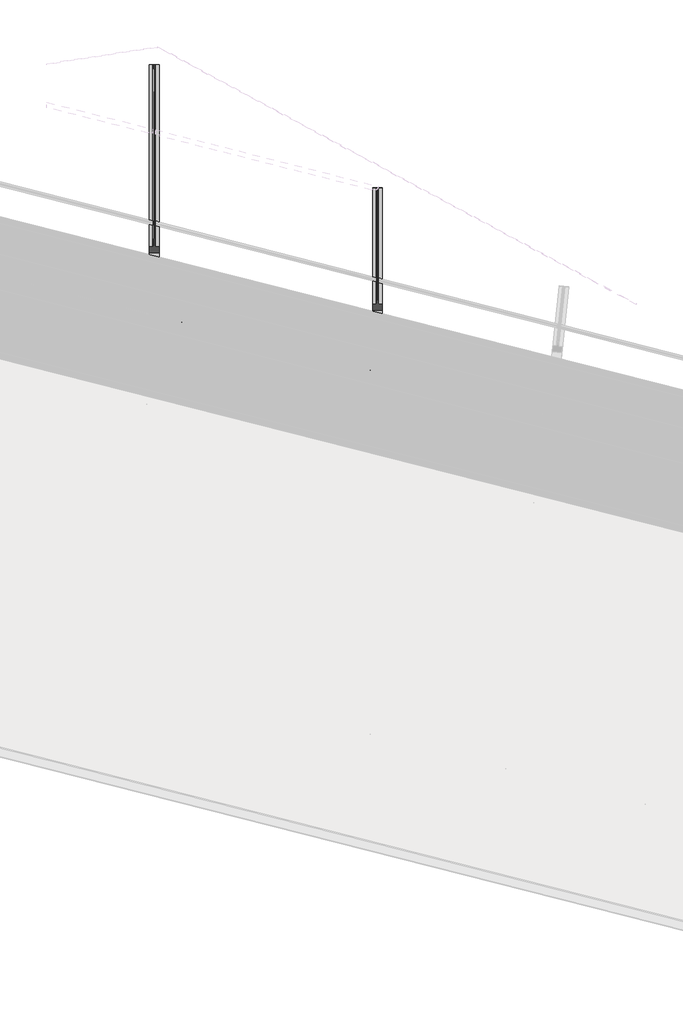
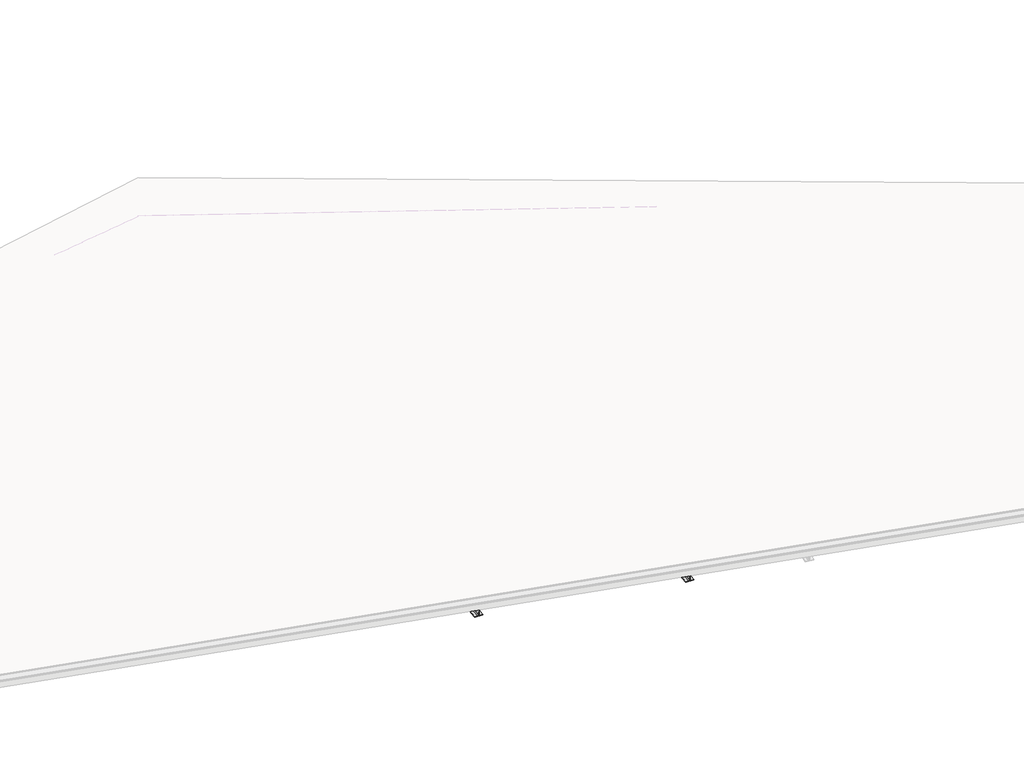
# One storey, part 7 of 10: 6 beams.
"""IFC4 building model written with IfcOpenShell, lengths in millimetres."""

from ifc_helpers import new_model, si_unit, frame, origin, place, context, project, spatial, polyline, ellipse_curve, faceted_brep, transform, mapped, element, save
from ifc_brep_helpers import plane_surface, cylinder_surface, revolved_surface, advanced_brep
from components import ipe_ipe450_4b1b466d, ipe_ipe450_39caabba

model = new_model("IFC4")

# Units and contexts
model_context = context("Model", 3, world=origin())
ifc_project = project(units=[si_unit("LENGTHUNIT", "METRE", prefix="MILLI")], contexts=[model_context])

# Site, building, storey
site = spatial("IfcSite", under=ifc_project)
building = spatial("IfcBuilding", under=site)
storey = spatial("IfcBuildingStorey", under=building, Name="2 Toiture batiment", Elevation=872910.0)

# Beams
placement = place(None, origin())
element("IfcBeam", 1, ObjectType="IPE : IPE160", at=placement, inside=storey, context=model_context, shape_type="AdvancedBrep", body=[
    advanced_brep(
    [(37439.4284051, 739.4741621, 873163.6416491), (37439.4284051, 709.2601002, 873160.0482973), (40178.3360551, 11.9856156, 873160.7284603), (40181.4289234, 41.4122912, 873164.3225802), (37439.4284051, 747.5602018, 873173.6709088), (40182.2566524, 49.2876067, 873174.3520454), (37529.7284051, 708.5752744, 873299.9461572), (37529.7284051, 710.8705397, 873281.8304198), (37440.4284051, 733.2709511, 873284.4419641), (37439.4284051, 733.6474971, 873283.4790905), (40180.8606773, 36.0057911, 873281.9854525), (40179.8682786, 36.1305204, 873282.9948096), (40092.3964756, 58.2046679, 873284.5084607), (40092.1879998, 56.2211531, 873300.5825022), (37529.7284051, 698.2256154, 873307.7828632), (40091.128555, 46.1412089, 873308.4189451), (37529.7284051, 668.0115536, 873304.1895114), (40088.0356868, 16.7145333, 873304.8248252), (37529.7284051, 667.0809546, 873311.5344084), (40087.9404258, 15.8081859, 873312.1696986), (37529.7284051, 751.0658044, 873321.5227084), (40096.5375511, 97.604369, 873322.1601335), (37529.7284051, 751.9964034, 873314.1778114), (40096.632812, 98.5107163, 873314.8152602), (37529.7284051, 721.7823416, 873310.5844596), (40093.5399438, 69.0840407, 873311.2211403), (37529.7284051, 713.6963018, 873300.5551999), (40092.7122148, 61.2087252, 873301.1916751), (37529.7284051, 715.9930666, 873282.4276278), (40092.9209026, 63.1942568, 873285.1012897), (40180.3927056, 41.1201093, 873283.5876386), (40181.3851043, 40.9953801, 873282.5782815), (40182.7808673, 54.2751788, 873174.9612183), (37439.4284051, 752.6812293, 873174.2799515), (37439.4284051, 738.7700239, 873284.0762985), (37440.4284051, 738.393478, 873285.0391721), (37439.4284051, 763.0308882, 873166.4432455), (40183.8403122, 64.355123, 873167.1247754), (37439.4284051, 793.24495, 873170.0365973), (40186.9331804, 93.7817986, 873170.7188953), (37439.4284051, 794.175549, 873162.6917003), (40187.0284414, 94.688146, 873163.374022), (37439.4284051, 710.1906992, 873152.7034003), (40178.4313161, 12.8919629, 873153.383587)],
    [
        (0, 1),
        (1, 2),
        (2, 3),
        (3, 0),
        (4, 0, ellipse_curve(frame((37439.4284051, 738.3423525, 873172.574632), z_axis=(-1.0, 0.0, 0.0), x_axis=(0.0, -0.9999995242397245, 0.0009754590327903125)), 9.2870741, 9.0)),
        (3, 5, ellipse_curve(frame((40181.3130655, 40.3099768, 873173.2555343), z_axis=(0.994521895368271, -0.10452846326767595, 0.0), x_axis=(-0.10452831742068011, -0.9945205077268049, 0.0016704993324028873)), 9.0948732, 9.0)),
        (5, 4),
        (6, 7),
        (7, 8),
        (8, 9, ellipse_curve(frame((37440.4284051, 733.3966526, 873283.4498459), z_axis=(-0.244844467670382, -0.9618726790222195, -0.12186933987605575), x_axis=(0.9687598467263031, -0.24781463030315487, 0.009605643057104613)), 1.0314444, 1.0)),
        (9, 4),
        (5, 10),
        (10, 11, ellipse_curve(frame((40179.8811499, 36.252982, 873282.0024026), z_axis=(-0.244844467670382, -0.9618726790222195, -0.12186933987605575), x_axis=(0.9681471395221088, -0.24933694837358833, 0.02285174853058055)), 1.0103953, 1.0)),
        (11, 12),
        (12, 13),
        (13, 6),
        (14, 6, ellipse_curve(frame((37529.7284051, 699.357425, 873298.8498804), z_axis=(-1.0, 0.0, 0.0), x_axis=(0.0, -0.9999995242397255, 0.0009754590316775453)), 9.2870741, 9.0)),
        (13, 15, ellipse_curve(frame((40091.2444129, 47.2435232, 873299.4859911), z_axis=(0.9945218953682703, -0.10452846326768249, 0.0), x_axis=(-0.10452831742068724, -0.9945205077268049, 0.0016704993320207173)), 9.0948732, 9.0)),
        (15, 14),
        (16, 14),
        (15, 17),
        (17, 16),
        (18, 16),
        (17, 19),
        (19, 18),
        (20, 18),
        (19, 21),
        (21, 20),
        (22, 20),
        (21, 23),
        (23, 22),
        (24, 22),
        (23, 25),
        (25, 24),
        (26, 24, ellipse_curve(frame((37529.7284051, 722.9141512, 873301.6514767), z_axis=(-1.0, 0.0, 0.0), x_axis=(0.0, -0.9999995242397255, 0.0009754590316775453)), 9.2870741, 9.0)),
        (25, 27, ellipse_curve(frame((40093.6558017, 70.1863551, 873302.2881863), z_axis=(0.9945218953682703, -0.10452846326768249, 0.0), x_axis=(-0.10452831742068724, -0.9945205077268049, 0.0016704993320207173)), 9.0948732, 9.0)),
        (27, 26),
        (28, 26),
        (27, 29),
        (29, 30),
        (30, 31, ellipse_curve(frame((40180.4055768, 41.242571, 873282.5952317), z_axis=(0.244844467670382, 0.9618726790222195, 0.12186933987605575), x_axis=(0.9681471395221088, -0.24933694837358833, 0.02285174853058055)), 1.0103953, 1.0)),
        (31, 32),
        (32, 33),
        (33, 34),
        (34, 35, ellipse_curve(frame((37440.4284051, 738.5191795, 873284.0470539), z_axis=(0.244844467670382, 0.9618726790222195, 0.12186933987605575), x_axis=(0.9687598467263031, -0.24781463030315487, 0.009605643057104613)), 1.0314444, 1.0)),
        (35, 28),
        (36, 33, ellipse_curve(frame((37439.4284051, 761.8990786, 873175.3762283), z_axis=(-1.0, 0.0, 0.0), x_axis=(0.0, -0.9999995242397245, 0.0009754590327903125)), 9.2870741, 9.0)),
        (32, 37, ellipse_curve(frame((40183.7244543, 63.2528087, 873176.0577295), z_axis=(0.994521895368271, -0.10452846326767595, 0.0), x_axis=(-0.10452831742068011, -0.9945205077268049, 0.0016704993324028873)), 9.0948732, 9.0)),
        (37, 36),
        (38, 36),
        (37, 39),
        (39, 38),
        (40, 38),
        (39, 41),
        (41, 40),
        (42, 40),
        (41, 43),
        (43, 42),
        (1, 42),
        (43, 2),
        (28, 7),
        (35, 8),
        (34, 9),
        (31, 10),
        (30, 11),
        (29, 12),
    ],
    [
        plane_surface(frame((37409.3267057, 716.923428, 873160.040822), z_axis=(-0.030298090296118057, -0.1180432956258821, 0.9925461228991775), x_axis=(0.9690888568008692, -0.24671183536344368, 0.0002406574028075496))),
        revolved_surface(polyline([(40184.78640093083, 48.64358014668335, 873174.3526736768), (37439.41159771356, 747.5644806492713, 873173.6709046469)]), (37416.2769347, 744.2362823, 873172.5688827), (0.9690888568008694, -0.24671183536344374, 0.00024065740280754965)),
        plane_surface(frame((37418.4805349, 752.8931364, 873173.6657067), z_axis=(-0.244844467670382, -0.9618726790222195, -0.12186933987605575), x_axis=(0.9690888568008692, -0.24671183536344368, 0.0002406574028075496))),
        revolved_surface(polyline([(40094.717748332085, 55.577126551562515, 873300.5831304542), (37529.71159772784, 708.5795532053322, 873299.9461530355)]), (37412.4230176, 729.2211751, 873298.8207495), (0.9690888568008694, -0.24671183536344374, 0.00024065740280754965)),
        plane_surface(frame((37412.1503348, 728.1587855, 873307.7536646), z_axis=(0.030298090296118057, 0.1180432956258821, -0.9925461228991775), x_axis=(0.9690888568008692, -0.24671183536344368, 0.0002406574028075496))),
        plane_surface(frame((37404.927423, 699.7835414, 873304.1585191), z_axis=(-0.244844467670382, -0.9618726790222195, -0.12186933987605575), x_axis=(0.9690888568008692, -0.24671183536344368, 0.0002406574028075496))),
        plane_surface(frame((37404.7032171, 698.910021, 873311.5033604), z_axis=(-0.030298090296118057, -0.1180432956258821, 0.9925461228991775), x_axis=(0.9690888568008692, -0.24671183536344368, 0.0002406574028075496))),
        plane_surface(frame((37424.7804635, 777.7835807, 873321.4966463), z_axis=(0.244844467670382, 0.9618726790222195, 0.12186933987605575), x_axis=(0.9690888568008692, -0.24671183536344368, 0.0002406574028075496))),
        plane_surface(frame((37425.0046694, 778.6571011, 873314.151805), z_axis=(0.030298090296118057, 0.1180432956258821, -0.9925461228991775), x_axis=(0.9690888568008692, -0.24671183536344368, 0.0002406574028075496))),
        revolved_surface(polyline([(40097.12913711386, 78.5199583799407, 873303.3853256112), (37529.71159771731, 732.136279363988, 873302.7477493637)]), (37418.0544404, 751.3442467, 873301.6237443), (0.9690888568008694, -0.24671183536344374, 0.00024065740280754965)),
        plane_surface(frame((37415.8508402, 742.6873926, 873300.5269203), z_axis=(0.244844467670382, 0.9618726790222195, 0.12186933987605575), x_axis=(0.9690888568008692, -0.24671183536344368, 0.0002406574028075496))),
        revolved_surface(polyline([(40187.19778971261, 71.58641197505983, 873177.1548688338), (37439.41159772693, 771.1212068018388, 873176.4725009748)]), (37421.9083575, 766.3593539, 873175.3718775), (0.9690888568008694, -0.24671183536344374, 0.00024065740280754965)),
        plane_surface(frame((37422.1810403, 767.4217436, 873166.4389624), z_axis=(-0.030298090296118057, -0.1180432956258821, 0.9925461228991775), x_axis=(0.9690888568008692, -0.24671183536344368, 0.0002406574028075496))),
        plane_surface(frame((37429.4039521, 795.7969876, 873170.0341079), z_axis=(0.244844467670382, 0.9618726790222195, 0.12186933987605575), x_axis=(0.9690888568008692, -0.24671183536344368, 0.0002406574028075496))),
        plane_surface(frame((37429.6281579, 796.670508, 873162.6892666), z_axis=(0.030298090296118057, 0.1180432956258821, -0.9925461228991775), x_axis=(0.9690888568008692, -0.24671183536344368, 0.0002406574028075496))),
        plane_surface(frame((37409.5509116, 717.7969483, 873152.6959807), z_axis=(-0.244844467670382, -0.9618726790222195, -0.12186933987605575), x_axis=(0.9690888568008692, -0.24671183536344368, 0.0002406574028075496))),
        plane_surface(frame((37529.7284051, 9873.6011188, 874405.0340378), z_axis=(-1.0000000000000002, 0.0, 0.0), x_axis=(0.0, -0.9932725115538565, -0.11580033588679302))),
        plane_surface(frame((37529.7284051, 9879.9238171, 874350.8013587), z_axis=(0.0, -0.11580033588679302, 0.9932725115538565), x_axis=(0.0, -0.9932725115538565, -0.11580033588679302))),
        cylinder_surface(frame((37440.4284051, 3683.1614087, 873627.3471606), z_axis=(0.0, -0.9932725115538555, -0.11580033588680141), x_axis=(0.0, -0.11580033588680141, 0.9932725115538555)), 1.0),
        plane_surface(frame((37439.4284051, 9880.0396174, 874349.8080862), z_axis=(-1.0000000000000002, 0.0, 0.0), x_axis=(0.0, -0.9932725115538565, -0.11580033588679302))),
        plane_surface(frame((41018.2134011, 8002.8847816, 873847.1205173), z_axis=(0.9945218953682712, -0.10452846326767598, 0.0), x_axis=(-0.10380628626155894, -0.9876508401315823, -0.11734595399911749))),
        cylinder_surface(frame((40430.8005706, 2423.5917995, 873565.6497603), z_axis=(-0.10380628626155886, -0.9876508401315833, -0.11734595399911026), x_axis=(0.9945218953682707, -0.10452846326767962, 0.0)), 1.0),
        plane_surface(frame((41012.5602553, 7958.6654649, 874224.296516), z_axis=(-0.012265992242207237, -0.11670312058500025, 0.9930910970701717), x_axis=(-0.10380628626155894, -0.9876508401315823, -0.11734595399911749))),
        plane_surface(frame((40923.7494501, 7967.9998566, 874224.296516), z_axis=(0.9945218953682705, -0.10452846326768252, 0.0), x_axis=(-0.10380628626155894, -0.9876508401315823, -0.11734595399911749))),
    ],
    [
        (0, [[1, 2, 3, 4]]),
        (1, [[5, -4, 6, 7]]),
        (2, [[8, 9, 10, 11, -7, 12, 13, 14, 15, 16]]),
        (3, [[17, -16, 18, 19]]),
        (4, [[20, -19, 21, 22]]),
        (5, [[23, -22, 24, 25]]),
        (6, [[26, -25, 27, 28]]),
        (7, [[29, -28, 30, 31]]),
        (8, [[32, -31, 33, 34]]),
        (9, [[35, -34, 36, 37]]),
        (10, [[38, -37, 39, 40, 41, 42, 43, 44, 45, 46]]),
        (11, [[47, -43, 48, 49]]),
        (12, [[50, -49, 51, 52]]),
        (13, [[53, -52, 54, 55]]),
        (14, [[56, -55, 57, 58]]),
        (15, [[59, -58, 60, -2]]),
        (16, [[61, -8, -17, -20, -23, -26, -29, -32, -35, -38]]),
        (17, [[-61, -46, 62, -9]]),
        (18, [[-62, -45, 63, -10]]),
        (19, [[-63, -44, -47, -50, -53, -56, -59, -1, -5, -11]]),
        (20, [[64, -12, -6, -3, -60, -57, -54, -51, -48, -42]]),
        (21, [[-64, -41, 65, -13]]),
        (22, [[-65, -40, 66, -14]]),
        (23, [[-66, -39, -36, -33, -30, -27, -24, -21, -18, -15]]),
    ],
),
])
element("IfcBeam", 2, ObjectType="IPE : IPE160", at=placement, inside=storey, context=model_context, shape_type="SolidModel", body=[
    faceted_brep([(40447.16689, 2070.944645, 873399.7198922), (40446.9488987, 2070.0695425, 873407.0647323), (40442.4750775, 2052.5019921, 873404.838862), (40442.4784969, 2052.5345259, 873397.3872655), (40444.3899721, 2070.7209972, 873407.0664023), (40444.485233, 2071.6273446, 873399.7216424)], [[[0, 1, 2, 3]], [[2, 1, 4]], [[1, 0, 5, 4]], [[0, 3, 5]], [[3, 2, 4, 5]]]),
    advanced_brep(
    [(40387.4152057, 2001.2408537, 873397.0971927), (40390.5080739, 2030.6675293, 873400.6950349), (37439.4284051, 2781.957028, 873402.6209661), (37439.4284051, 2751.7429661, 873399.0211054), (40391.3358029, 2038.5428448, 873410.7254978), (37439.4284051, 2790.0430677, 873412.6519692), (40389.9401093, 2025.2637068, 873518.3355454), (40388.9477217, 2025.3885415, 873519.344915), (40301.4769255, 2047.4722683, 873520.8597043), (40301.2671504, 2045.4763912, 873537.0336782), (37529.7284051, 2751.0581403, 873538.8424375), (37529.7284051, 2753.4501222, 873519.9638615), (37440.4284051, 2775.8605703, 873522.5765759), (37439.4284051, 2776.2372319, 873521.6137158), (40300.2077056, 2035.396447, 873544.8688476), (37529.7284051, 2740.7084813, 873546.6769155), (40297.1148373, 2005.9697714, 873541.2710053), (37529.7284051, 2710.4944195, 873543.0770548), (40297.0195764, 2005.063424, 873548.6157653), (37529.7284051, 2709.5638205, 873550.4217526), (40305.6167016, 2086.8596071, 873558.6165471), (37529.7284051, 2793.5486703, 873560.428145), (40305.7119626, 2087.7659544, 873551.2717872), (37529.7284051, 2794.4792693, 873553.0834472), (40302.6190944, 2058.3392788, 873547.6739449), (37529.7284051, 2764.2652075, 873549.4835865), (40301.7913653, 2050.4639633, 873537.643482), (37529.7284051, 2756.1791677, 873539.4525834), (40390.4645443, 2030.2533725, 873518.9283835), (40391.8600179, 2043.5304169, 873411.3353016), (37439.4284051, 2795.1640952, 873413.2621151), (37439.4284051, 2781.3598966, 873522.2109399), (37440.4284051, 2780.9832349, 873523.1738), (37529.7284051, 2758.5727868, 873520.5610856), (40302.0013605, 2052.461934, 873521.4525424), (40389.4721567, 2030.3782072, 873519.9377532), (40392.9194627, 2053.6103611, 873403.5001322), (37439.4284051, 2805.5137541, 873405.4276371), (40396.012331, 2083.0370367, 873407.0979745), (37439.4284051, 2835.7278159, 873409.0274978), (40396.1075919, 2083.9433841, 873399.7532145), (37439.4284051, 2836.6584149, 873401.6828), (40387.5104666, 2002.147201, 873389.7524327), (37439.4284051, 2752.6735651, 873391.6764076)],
    [
        (0, 1),
        (1, 2),
        (2, 3),
        (3, 0),
        (1, 4, ellipse_curve(frame((40390.392216, 2029.5652149, 873409.6278511), z_axis=(0.994521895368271, -0.10452846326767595, 0.0), x_axis=(-0.10452745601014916, -0.9945123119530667, -0.004390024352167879)), 9.0948748, 9.0)),
        (4, 5),
        (5, 2, ellipse_curve(frame((37439.4284051, 2780.8252184, 873411.5537066), z_axis=(-1.0, 0.0, 0.0), x_axis=(0.0, -0.9999967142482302, -0.0025634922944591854)), 9.2870757, 9.0)),
        (4, 6),
        (6, 7, ellipse_curve(frame((40388.9605931, 2025.511005, 873518.3525083), z_axis=(-0.24494758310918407, -0.9618464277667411, -0.1218693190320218), x_axis=(0.968121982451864, -0.24943734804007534, 0.022821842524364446)), 1.0104109, 1.0)),
        (7, 8),
        (8, 9),
        (9, 10),
        (10, 11),
        (11, 12),
        (12, 13, ellipse_curve(frame((37440.4284051, 2775.9862751, 873521.5844581), z_axis=(-0.24494758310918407, -0.9618464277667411, -0.1218693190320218), x_axis=(0.9687339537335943, -0.24791649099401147, 0.009588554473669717)), 1.0314721, 1.0)),
        (13, 5),
        (9, 14, ellipse_curve(frame((40300.3235635, 2036.4987613, 873535.9360314), z_axis=(0.9945218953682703, -0.10452846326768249, 0.0), x_axis=(-0.10452745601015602, -0.9945123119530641, -0.004390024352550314)), 9.0948748, 9.0)),
        (14, 15),
        (15, 10, ellipse_curve(frame((37529.7284051, 2741.8402909, 873537.7441749), z_axis=(-1.0, 0.0, 0.0), x_axis=(0.0, -0.9999967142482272, -0.0025634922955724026)), 9.2870757, 9.0)),
        (14, 16),
        (16, 17),
        (17, 15),
        (16, 18),
        (18, 19),
        (19, 17),
        (18, 20),
        (20, 21),
        (21, 19),
        (20, 22),
        (22, 23),
        (23, 21),
        (22, 24),
        (24, 25),
        (25, 23),
        (24, 26, ellipse_curve(frame((40302.7349523, 2059.4415932, 873538.7411287), z_axis=(0.9945218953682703, -0.10452846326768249, 0.0), x_axis=(-0.10452745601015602, -0.9945123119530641, -0.004390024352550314)), 9.0948748, 9.0)),
        (26, 27),
        (27, 25, ellipse_curve(frame((37529.7284051, 2765.3970171, 873540.550846), z_axis=(-1.0, 0.0, 0.0), x_axis=(0.0, -0.9999967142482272, -0.0025634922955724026)), 9.2870757, 9.0)),
        (28, 29),
        (29, 30),
        (30, 31),
        (31, 32, ellipse_curve(frame((37440.4284051, 2781.1089397, 873522.1816822), z_axis=(0.24494758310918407, 0.9618464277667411, 0.1218693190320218), x_axis=(0.9687339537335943, -0.24791649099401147, 0.009588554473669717)), 1.0314721, 1.0)),
        (32, 33),
        (33, 27),
        (26, 34),
        (34, 35),
        (35, 28, ellipse_curve(frame((40389.4850281, 2030.5006707, 873518.9453465), z_axis=(0.24494758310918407, 0.9618464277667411, 0.1218693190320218), x_axis=(0.968121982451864, -0.24943734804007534, 0.022821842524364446)), 1.0104109, 1.0)),
        (29, 36, ellipse_curve(frame((40392.8036048, 2052.5080468, 873412.4329484), z_axis=(0.994521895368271, -0.10452846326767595, 0.0), x_axis=(-0.10452745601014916, -0.9945123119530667, -0.004390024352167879)), 9.0948748, 9.0)),
        (36, 37),
        (37, 30, ellipse_curve(frame((37439.4284051, 2804.3819445, 873414.3603777), z_axis=(-1.0, 0.0, 0.0), x_axis=(0.0, -0.9999967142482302, -0.0025634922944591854)), 9.2870757, 9.0)),
        (36, 38),
        (38, 39),
        (39, 37),
        (38, 40),
        (40, 41),
        (41, 39),
        (40, 42),
        (42, 43),
        (43, 41),
        (42, 0),
        (3, 43),
        (28, 6),
        (35, 7),
        (34, 8),
        (33, 11),
        (32, 12),
        (31, 13),
    ],
    [
        plane_surface(frame((37409.2179219, 2759.4339882, 873399.0408213), z_axis=(-0.029458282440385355, -0.11825709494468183, 0.9925459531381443), x_axis=(0.9690886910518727, -0.24671179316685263, -0.0006324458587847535))),
        revolved_surface(polyline([(40393.866489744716, 2037.8985794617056, 873410.7238462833), (37439.41251990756, 2790.047111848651, 873412.6519795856)]), (37416.178751, 2786.744144, 873411.5688798), (0.9690886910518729, -0.24671179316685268, -0.0006324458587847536)),
        plane_surface(frame((37418.3832793, 2795.4007618, 873412.6657037), z_axis=(-0.24494758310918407, -0.9618464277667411, -0.1218693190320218), x_axis=(0.9690886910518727, -0.24671179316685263, -0.0006324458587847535))),
        revolved_surface(polyline([(40303.79783723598, 2044.832125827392, 873537.0320265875), (37529.71251991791, 2751.062184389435, 873538.8424478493)]), (37412.4316575, 2771.7018415, 873537.820725), (0.9690886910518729, -0.24671179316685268, -0.0006324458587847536)),
        plane_surface(frame((37412.1665329, 2770.6375276, 873546.7536386), z_axis=(0.029458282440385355, 0.11825709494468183, -0.9925459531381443), x_axis=(0.9690886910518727, -0.24671179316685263, -0.0006324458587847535))),
        plane_surface(frame((37404.9405792, 2742.263058, 873543.1584937), z_axis=(-0.24494758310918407, -0.9618464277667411, -0.1218693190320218), x_axis=(0.9690886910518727, -0.24671179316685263, -0.0006324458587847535))),
        plane_surface(frame((37404.7225879, 2741.3879555, 873550.5033338), z_axis=(-0.029458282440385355, -0.11825709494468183, 0.9925459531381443), x_axis=(0.9690886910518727, -0.24671179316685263, -0.0006324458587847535))),
        plane_surface(frame((37424.8082898, 2820.2593626, 873560.4966179), z_axis=(0.24494758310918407, 0.9618464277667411, 0.1218693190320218), x_axis=(0.9690886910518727, -0.24671179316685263, -0.0006324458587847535))),
        plane_surface(frame((37425.0262811, 2821.1344651, 873553.1517779), z_axis=(0.029458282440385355, 0.11825709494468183, -0.9925459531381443), x_axis=(0.9690886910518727, -0.24671179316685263, -0.0006324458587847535))),
        revolved_surface(polyline([(40306.20922600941, 2067.774957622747, 873539.8371239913), (37529.712519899, 2774.6189105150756, 873541.6491189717)]), (37418.0654519, 2793.8243093, 873540.6237194), (0.9690886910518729, -0.24671179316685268, -0.0006324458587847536)),
        plane_surface(frame((37415.8609236, 2785.1676915, 873539.5268955), z_axis=(0.24494758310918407, 0.9618464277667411, 0.1218693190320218), x_axis=(0.9690886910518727, -0.24671179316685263, -0.0006324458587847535))),
        revolved_surface(polyline([(40396.27787851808, 2060.8414112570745, 873413.5289435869), (37439.41251991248, 2813.603837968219, 873415.4586506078)]), (37421.8125454, 2808.8666118, 873414.3718741), (0.9690886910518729, -0.24671179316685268, -0.0006324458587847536)),
        plane_surface(frame((37422.07767, 2809.9309256, 873405.4389606), z_axis=(-0.029458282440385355, -0.11825709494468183, 0.9925459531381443), x_axis=(0.9690886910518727, -0.24671179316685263, -0.0006324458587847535))),
        plane_surface(frame((37429.3036237, 2838.3053953, 873409.0341055), z_axis=(0.24494758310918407, 0.9618464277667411, 0.1218693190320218), x_axis=(0.9690886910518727, -0.24671179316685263, -0.0006324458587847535))),
        plane_surface(frame((37429.521615, 2839.1804978, 873401.6892654), z_axis=(0.029458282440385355, 0.11825709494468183, -0.9925459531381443), x_axis=(0.9690886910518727, -0.24671179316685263, -0.0006324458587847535))),
        plane_surface(frame((37409.4359131, 2760.3090907, 873391.6959812), z_axis=(-0.24494758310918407, -0.9618464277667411, -0.1218693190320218), x_axis=(0.9690886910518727, -0.24671179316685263, -0.0006324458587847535))),
        plane_surface(frame((41018.2134011, 8002.8847816, 873847.1205173), z_axis=(0.9945218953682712, -0.10452846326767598, 0.0), x_axis=(-0.10380628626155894, -0.9876508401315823, -0.11734595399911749))),
        cylinder_surface(frame((40430.8005706, 2423.5917995, 873565.6497603), z_axis=(-0.10380628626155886, -0.9876508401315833, -0.11734595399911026), x_axis=(0.9945218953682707, -0.10452846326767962, 0.0)), 1.0),
        plane_surface(frame((41012.5602553, 7958.6654649, 874224.296516), z_axis=(-0.012265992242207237, -0.11670312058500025, 0.9930910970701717), x_axis=(-0.10380628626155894, -0.9876508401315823, -0.11734595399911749))),
        plane_surface(frame((40923.7494501, 7967.9998566, 874224.296516), z_axis=(0.9945218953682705, -0.10452846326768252, 0.0), x_axis=(-0.10380628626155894, -0.9876508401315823, -0.11734595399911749))),
        plane_surface(frame((37529.7284051, 9873.6011188, 874405.0340378), z_axis=(-1.0000000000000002, 0.0, 0.0), x_axis=(0.0, -0.9932725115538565, -0.11580033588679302))),
        plane_surface(frame((37529.7284051, 9879.9238171, 874350.8013587), z_axis=(0.0, -0.11580033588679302, 0.9932725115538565), x_axis=(0.0, -0.9932725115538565, -0.11580033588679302))),
        cylinder_surface(frame((37440.4284051, 3683.1614087, 873627.3471606), z_axis=(0.0, -0.9932725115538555, -0.11580033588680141), x_axis=(0.0, -0.11580033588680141, 0.9932725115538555)), 1.0),
        plane_surface(frame((37439.4284051, 9880.0396174, 874349.8080862), z_axis=(-1.0000000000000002, 0.0, 0.0), x_axis=(0.0, -0.9932725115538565, -0.11580033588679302))),
    ],
    [
        (0, [[1, 2, 3, 4]]),
        (1, [[5, 6, 7, -2]]),
        (2, [[8, 9, 10, 11, 12, 13, 14, 15, 16, -6]]),
        (3, [[17, 18, 19, -12]]),
        (4, [[20, 21, 22, -18]]),
        (5, [[23, 24, 25, -21]]),
        (6, [[26, 27, 28, -24]]),
        (7, [[29, 30, 31, -27]]),
        (8, [[32, 33, 34, -30]]),
        (9, [[35, 36, 37, -33]]),
        (10, [[38, 39, 40, 41, 42, 43, -36, 44, 45, 46]]),
        (11, [[47, 48, 49, -39]]),
        (12, [[50, 51, 52, -48]]),
        (13, [[53, 54, 55, -51]]),
        (14, [[56, 57, 58, -54]]),
        (15, [[59, -4, 60, -57]]),
        (16, [[61, -8, -5, -1, -59, -56, -53, -50, -47, -38]]),
        (17, [[-61, -46, 62, -9]]),
        (18, [[-62, -45, 63, -10]]),
        (19, [[-63, -44, -35, -32, -29, -26, -23, -20, -17, -11]]),
        (20, [[64, -13, -19, -22, -25, -28, -31, -34, -37, -43]]),
        (21, [[-64, -42, 65, -14]]),
        (22, [[-65, -41, 66, -15]]),
        (23, [[-66, -40, -49, -52, -55, -58, -60, -3, -7, -16]]),
    ],
),
])
element("IfcBeam", 3, ObjectType="IPE : IPE160", at=placement, inside=storey, context=model_context, shape_type="AdvancedBrep", body=[
    advanced_brep(
    [(37390.0284051, 6301.3659198, 873813.9379113), (37390.0284051, 6331.5799816, 873817.5486101), (33097.4031572, 7424.401807, 873826.7862869), (33097.4031572, 7394.1877451, 873823.175588), (37390.0284051, 6339.6660214, 873827.5825318), (33097.4031572, 7432.4878467, 873836.8202085), (37390.0284051, 6325.9968187, 873935.4612226), (37389.0284051, 6326.1222524, 873936.4826193), (37299.7284051, 6348.5494052, 873939.0972812), (37299.7284051, 6346.6584645, 873954.0207711), (33187.7031572, 7393.5029193, 873962.8697988), (33187.7031572, 7397.5689054, 873930.7806373), (33098.4031572, 7419.9946885, 873933.4061084), (33097.4031572, 7420.3715267, 873932.4433965), (37299.7284051, 6336.3088055, 873961.8515544), (33187.7031572, 7383.1532603, 873970.7005821), (37299.7284051, 6306.0947437, 873958.2408555), (33187.7031572, 7352.9391985, 873967.0898833), (37299.7284051, 6305.1641447, 873965.5852342), (33187.7031572, 7352.0085995, 873974.434262), (37299.7284051, 6389.1489945, 873975.6217531), (33187.7031572, 7435.9934493, 873984.4707809), (37299.7284051, 6390.0795935, 873968.2773744), (33187.7031572, 7436.9240483, 873977.1264022), (37299.7284051, 6359.8655317, 873964.6666755), (33187.7031572, 7406.7099865, 873973.5157033), (37299.7284051, 6351.7794919, 873954.6327539), (33187.7031572, 7398.6239467, 873963.4817817), (37390.0284051, 6331.1197128, 873936.0584734), (37390.0284051, 6344.7870488, 873828.1945146), (33097.4031572, 7437.6088742, 873837.4321914), (33097.4031572, 7425.494108, 873933.0431164), (33098.4031572, 7425.1172698, 873934.0058283), (33187.7031572, 7402.6914866, 873931.3803572), (37299.7284051, 6353.6722993, 873939.6945321), (37389.0284051, 6331.2451465, 873937.0798701), (37390.0284051, 6355.1367078, 873820.3637313), (33097.4031572, 7447.9585331, 873829.601408), (37390.0284051, 6385.3507696, 873823.9744302), (33097.4031572, 7478.1725949, 873833.2121069), (37390.0284051, 6386.2813686, 873816.6300515), (33097.4031572, 7479.1031939, 873825.8677282), (37390.0284051, 6302.2965188, 873806.5935326), (33097.4031572, 7395.1183441, 873815.8312093)],
    [
        (0, 1),
        (1, 2),
        (2, 3),
        (3, 0),
        (1, 4, ellipse_curve(frame((37390.0284051, 6330.448172, 873826.4809626), z_axis=(1.0, 0.0, 0.0), x_axis=(0.0, -0.9999642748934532, -0.008452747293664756)), 9.287094, 9.0)),
        (4, 5),
        (5, 2, ellipse_curve(frame((33097.4031572, 7423.2699974, 873835.7186394), z_axis=(-1.0, 0.0, 0.0), x_axis=(0.0, -0.9999642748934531, -0.008452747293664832)), 9.287094, 9.0)),
        (4, 6),
        (6, 7, ellipse_curve(frame((37389.0284051, 6326.2479626, 873935.4905021), z_axis=(-0.2451191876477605, -0.9618027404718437, -0.1218690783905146), x_axis=(0.9686908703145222, -0.24808590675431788, 0.009559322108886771)), 1.0315183, 1.0)),
        (7, 8),
        (8, 9),
        (9, 10),
        (10, 11),
        (11, 12),
        (12, 13, ellipse_curve(frame((33098.4031572, 7420.1203981, 873932.4139959), z_axis=(-0.2451191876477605, -0.9618027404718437, -0.1218690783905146), x_axis=(0.9687665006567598, -0.24785798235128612, 0.007608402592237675)), 1.0315135, 1.0)),
        (13, 5),
        (9, 14, ellipse_curve(frame((37299.7284051, 6337.4406151, 873952.9192019), z_axis=(1.0, 0.0, 0.0), x_axis=(0.0, -0.9999642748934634, -0.008452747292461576)), 9.287094, 9.0)),
        (14, 15),
        (15, 10, ellipse_curve(frame((33187.7031572, 7384.2850699, 873961.7682297), z_axis=(-1.0, 0.0, 0.0), x_axis=(0.0, -0.9999642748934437, -0.008452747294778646)), 9.287094, 9.0)),
        (14, 16),
        (16, 17),
        (17, 15),
        (16, 18),
        (18, 19),
        (19, 17),
        (18, 20),
        (20, 21),
        (21, 19),
        (20, 22),
        (22, 23),
        (23, 21),
        (22, 24),
        (24, 25),
        (25, 23),
        (24, 26, ellipse_curve(frame((37299.7284051, 6360.9973413, 873955.7343231), z_axis=(1.0, 0.0, 0.0), x_axis=(0.0, -0.9999642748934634, -0.008452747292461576)), 9.287094, 9.0)),
        (26, 27),
        (27, 25, ellipse_curve(frame((33187.7031572, 7407.8417961, 873964.5833508), z_axis=(-1.0, 0.0, 0.0), x_axis=(0.0, -0.9999642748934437, -0.008452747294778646)), 9.287094, 9.0)),
        (28, 29),
        (29, 30),
        (30, 31),
        (31, 32, ellipse_curve(frame((33098.4031572, 7425.2429794, 873933.0137158), z_axis=(0.2451191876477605, 0.9618027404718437, 0.1218690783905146), x_axis=(0.9687665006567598, -0.24785798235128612, 0.007608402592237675)), 1.0315135, 1.0)),
        (32, 33),
        (33, 27),
        (26, 34),
        (34, 35),
        (35, 28, ellipse_curve(frame((37389.0284051, 6331.3708567, 873936.087753), z_axis=(0.2451191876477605, 0.9618027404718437, 0.1218690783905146), x_axis=(0.9686908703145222, -0.24808590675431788, 0.009559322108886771)), 1.0315183, 1.0)),
        (29, 36, ellipse_curve(frame((37390.0284051, 6354.0048982, 873829.2960838), z_axis=(1.0, 0.0, 0.0), x_axis=(0.0, -0.9999642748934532, -0.008452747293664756)), 9.287094, 9.0)),
        (36, 37),
        (37, 30, ellipse_curve(frame((33097.4031572, 7446.8267235, 873838.5337605), z_axis=(-1.0, 0.0, 0.0), x_axis=(0.0, -0.9999642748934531, -0.008452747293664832)), 9.287094, 9.0)),
        (36, 38),
        (38, 39),
        (39, 37),
        (38, 40),
        (40, 41),
        (41, 39),
        (40, 42),
        (42, 43),
        (43, 41),
        (42, 0),
        (3, 43),
        (28, 6),
        (35, 7),
        (34, 8),
        (33, 11),
        (32, 12),
        (31, 13),
    ],
    [
        plane_surface(frame((33066.9513002, 7401.9402164, 873823.24112), z_axis=(-0.0280606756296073, -0.11861289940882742, 0.9925439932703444), x_axis=(0.969086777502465, -0.2467113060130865, -0.0020854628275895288))),
        revolved_surface(polyline([(37394.45495887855, 6338.539103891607, 873827.5730058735), (33097.388748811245, 7432.491514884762, 873836.8202395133)]), (33073.9297702, 7429.2458812, 873835.7691538), (0.9690867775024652, -0.24671130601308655, -0.002085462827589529)),
        plane_surface(frame((33076.1358429, 7437.9021058, 873836.8659755), z_axis=(-0.2451191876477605, -0.9618027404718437, -0.1218690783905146), x_axis=(0.969086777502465, -0.2467113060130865, -0.0020854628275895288))),
        revolved_surface(polyline([(37304.1549588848, 6345.531547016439, 873954.0112451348), (33187.688748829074, 7393.506587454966, 873962.8698297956)]), (33070.3604523, 7414.1583204, 873962.0207497), (0.9690867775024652, -0.24671130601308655, -0.002085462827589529)),
        plane_surface(frame((33070.1079062, 7413.0908043, 873970.9536457), z_axis=(0.0280606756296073, 0.11861289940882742, -0.9925439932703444), x_axis=(0.969086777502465, -0.2467113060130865, -0.0020854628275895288))),
        plane_surface(frame((33062.8768901, 7384.7176234, 873967.3585079), z_axis=(-0.2451191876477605, -0.9618027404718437, -0.1218690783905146), x_axis=(0.969086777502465, -0.2467113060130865, -0.0020854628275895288))),
        plane_surface(frame((33062.6692411, 7383.839888, 873974.7033334), z_axis=(-0.0280606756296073, -0.11861289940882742, 0.9925439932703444), x_axis=(0.969086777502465, -0.2467113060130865, -0.0020854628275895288))),
        plane_surface(frame((33082.7690145, 7462.7077127, 873984.6965978), z_axis=(0.2451191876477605, 0.9618027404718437, 0.1218690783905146), x_axis=(0.969086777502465, -0.2467113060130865, -0.0020854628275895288))),
        plane_surface(frame((33082.9766635, 7463.5854481, 873977.3517723), z_axis=(0.0280606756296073, 0.11861289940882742, -0.9925439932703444), x_axis=(0.969086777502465, -0.2467113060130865, -0.0020854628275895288))),
        revolved_surface(polyline([(37304.15495886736, 6369.088273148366, 873956.8263662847), (33187.68874881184, 7417.063313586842, 873965.6849509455)]), (33075.9981936, 7436.2797834, 873964.8237385), (0.9690867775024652, -0.24671130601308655, -0.002085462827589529)),
        plane_surface(frame((33073.7921209, 7427.6235587, 873963.7269168), z_axis=(0.2451191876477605, 0.9618027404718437, 0.1218690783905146), x_axis=(0.969086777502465, -0.2467113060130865, -0.0020854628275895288))),
        revolved_surface(polyline([(37394.45495886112, 6362.095830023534, 873830.3881270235), (33097.38874881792, 7456.048241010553, 873839.6353606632)]), (33079.5675115, 7451.3673442, 873838.5721426), (0.9690867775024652, -0.24671130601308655, -0.002085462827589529)),
        plane_surface(frame((33079.8200576, 7452.4348603, 873829.6392467), z_axis=(-0.0280606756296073, -0.11861289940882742, 0.9925439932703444), x_axis=(0.969086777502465, -0.2467113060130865, -0.0020854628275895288))),
        plane_surface(frame((33087.0510736, 7480.8080411, 873833.2343845), z_axis=(0.2451191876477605, 0.9618027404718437, 0.1218690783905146), x_axis=(0.969086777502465, -0.2467113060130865, -0.0020854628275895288))),
        plane_surface(frame((33087.2587226, 7481.6857766, 873825.8895589), z_axis=(0.0280606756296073, 0.11861289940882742, -0.9925439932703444), x_axis=(0.969086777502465, -0.2467113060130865, -0.0020854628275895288))),
        plane_surface(frame((33067.1589492, 7402.8179519, 873815.8962945), z_axis=(-0.2451191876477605, -0.9618027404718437, -0.1218690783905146), x_axis=(0.969086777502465, -0.2467113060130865, -0.0020854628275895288))),
        plane_surface(frame((37390.0284051, 9923.9047847, 873973.5564588), z_axis=(1.0000000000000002, 0.0, 0.0), x_axis=(0.0, -0.9932725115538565, -0.11580033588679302))),
        cylinder_surface(frame((37389.0284051, 3683.1614087, 873627.3471606), z_axis=(0.0, -0.9932725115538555, -0.11580033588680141), x_axis=(1.0, 0.0, 0.0)), 1.0),
        plane_surface(frame((37389.0284051, 9879.9238171, 874350.8013587), z_axis=(0.0, -0.11580033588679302, 0.9932725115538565), x_axis=(0.0, -0.9932725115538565, -0.11580033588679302))),
        plane_surface(frame((37299.7284051, 9879.9238171, 874350.8013587), z_axis=(1.0000000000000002, 0.0, 0.0), x_axis=(0.0, -0.9932725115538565, -0.11580033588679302))),
        plane_surface(frame((33187.7031572, 12263.0191844, 874555.3701791), z_axis=(-1.0, 0.0, 0.0), x_axis=(0.0, -0.9932165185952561, -0.11627960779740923))),
        plane_surface(frame((33187.7031572, 12269.368051, 874501.1405571), z_axis=(0.0, -0.11627960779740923, 0.9932165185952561), x_axis=(0.0, -0.9932165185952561, -0.11627960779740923))),
        cylinder_surface(frame((33098.4031572, 5419.220341, 873698.1610717), z_axis=(0.0, -0.9932165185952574, -0.11627960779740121), x_axis=(0.0, -0.11627960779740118, 0.9932165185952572)), 1.0),
        plane_surface(frame((33097.4031572, 12269.4843306, 874500.1473406), z_axis=(-1.0, 0.0, 0.0), x_axis=(0.0, -0.9932165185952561, -0.1162796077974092))),
    ],
    [
        (0, [[1, 2, 3, 4]]),
        (1, [[5, 6, 7, -2]]),
        (2, [[8, 9, 10, 11, 12, 13, 14, 15, 16, -6]]),
        (3, [[17, 18, 19, -12]]),
        (4, [[20, 21, 22, -18]]),
        (5, [[23, 24, 25, -21]]),
        (6, [[26, 27, 28, -24]]),
        (7, [[29, 30, 31, -27]]),
        (8, [[32, 33, 34, -30]]),
        (9, [[35, 36, 37, -33]]),
        (10, [[38, 39, 40, 41, 42, 43, -36, 44, 45, 46]]),
        (11, [[47, 48, 49, -39]]),
        (12, [[50, 51, 52, -48]]),
        (13, [[53, 54, 55, -51]]),
        (14, [[56, 57, 58, -54]]),
        (15, [[59, -4, 60, -57]]),
        (16, [[61, -8, -5, -1, -59, -56, -53, -50, -47, -38]]),
        (17, [[-61, -46, 62, -9]]),
        (18, [[-62, -45, 63, -10]]),
        (19, [[-63, -44, -35, -32, -29, -26, -23, -20, -17, -11]]),
        (20, [[64, -13, -19, -22, -25, -28, -31, -34, -37, -43]]),
        (21, [[-64, -42, 65, -14]]),
        (22, [[-65, -41, 66, -15]]),
        (23, [[-66, -40, -49, -52, -55, -58, -60, -3, -7, -16]]),
    ],
),
])
element("IfcBeam", 4, ObjectType="IPE : IPE160", at=placement, inside=storey, context=model_context, shape_type="AdvancedBrep", body=[
    advanced_brep(
    [(33097.4031572, 5662.3073162, 873609.2539349), (33097.4031572, 5632.1016788, 873605.6644391), (37390.0284051, 4544.2967691, 873609.0369614), (37390.0284051, 4574.5024065, 873612.6264572), (33097.4031572, 5670.3911014, 873619.2821649), (37390.0284051, 4582.5861917, 873622.6546872), (33187.7031572, 5631.5161703, 873745.6080084), (33187.7031572, 5634.210338, 873724.3375921), (33098.4031572, 5656.5006477, 873726.9472028), (33097.4031572, 5656.8759236, 873725.984308), (37390.0284051, 4568.912019, 873730.6120925), (37389.0284051, 4569.0359809, 873731.6333176), (37299.7284051, 4591.3276516, 873734.2321844), (37299.7284051, 4589.4775588, 873748.8386415), (33187.7031572, 5621.1693971, 873753.4460377), (37299.7284051, 4579.1307855, 873756.6766707), (33187.7031572, 5590.9637597, 873749.8565419), (37299.7284051, 4548.9251481, 873753.0871749), (33187.7031572, 5590.0334202, 873757.2015596), (37299.7284051, 4547.9948086, 873760.4321926), (33187.7031572, 5673.994853, 873767.1791411), (37299.7284051, 4631.9562414, 873770.4097741), (33187.7031572, 5674.9251925, 873759.8341234), (37299.7284051, 4632.8865809, 873763.0647564), (33187.7031572, 5644.7195551, 873756.2446276), (37299.7284051, 4602.6809435, 873759.4752606), (33187.7031572, 5636.6357699, 873746.2163975), (37299.7284051, 4594.5971583, 873749.4470306), (33187.7031572, 5639.3310631, 873724.9370948), (37299.7284051, 4596.4486893, 873734.8292188), (37389.0284051, 4574.1570187, 873732.230352), (37390.0284051, 4574.0330568, 873731.2091269), (37390.0284051, 4587.7057913, 873623.2630764), (33097.4031572, 5675.510701, 873619.890554), (33097.4031572, 5661.9966487, 873726.5838106), (33098.4031572, 5661.6213729, 873727.5467055), (33097.4031572, 5685.8574742, 873612.0525248), (37390.0284051, 4598.0525645, 873615.4250471), (33097.4031572, 5716.0631116, 873615.6420206), (37390.0284051, 4628.2582019, 873619.0145429), (33097.4031572, 5716.9934511, 873608.2970029), (37390.0284051, 4629.1885415, 873611.6695252), (33097.4031572, 5633.0320183, 873598.3194214), (37390.0284051, 4545.2271087, 873601.6919437)],
    [
        (0, 1),
        (1, 2),
        (2, 3),
        (3, 0),
        (4, 0, ellipse_curve(frame((33097.4031572, 5661.1758222, 873618.1870645), z_axis=(-1.0, 0.0, 0.0), x_axis=(0.0, -0.9999951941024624, 0.003100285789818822)), 9.284487, 9.0)),
        (3, 5, ellipse_curve(frame((37390.0284051, 4573.3709125, 873621.5595868), z_axis=(1.0, 0.0, 0.0), x_axis=(0.0, -0.9999951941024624, 0.0031002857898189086)), 9.284487, 9.0)),
        (5, 4),
        (6, 7),
        (7, 8),
        (8, 9, ellipse_curve(frame((33098.4031572, 5656.626312, 873725.955085), z_axis=(-0.2437267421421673, -0.9621565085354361, -0.12186930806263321), x_axis=(0.9691159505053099, -0.24648121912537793, 0.007828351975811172)), 1.0311397, 1.0)),
        (9, 4),
        (5, 10),
        (10, 11, ellipse_curve(frame((37389.0284051, 4569.1616458, 873730.6411951), z_axis=(-0.2437267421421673, -0.9621565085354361, -0.12186930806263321), x_axis=(0.9690397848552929, -0.24671044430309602, 0.00979040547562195)), 1.0311446, 1.0)),
        (11, 12),
        (12, 13),
        (13, 6),
        (14, 6, ellipse_curve(frame((33187.7031572, 5622.3008911, 873744.512908), z_axis=(-1.0, 0.0, 0.0), x_axis=(0.0, -0.9999951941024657, 0.0031002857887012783)), 9.284487, 9.0)),
        (13, 15, ellipse_curve(frame((37299.7284051, 4580.2622796, 873747.743541), z_axis=(1.0, 0.0, 0.0), x_axis=(0.0, -0.9999951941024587, 0.0031002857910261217)), 9.284487, 9.0)),
        (15, 14),
        (16, 14),
        (15, 17),
        (17, 16),
        (18, 16),
        (17, 19),
        (19, 18),
        (20, 18),
        (19, 21),
        (21, 20),
        (22, 20),
        (21, 23),
        (23, 22),
        (24, 22),
        (23, 25),
        (25, 24),
        (26, 24, ellipse_curve(frame((33187.7031572, 5645.8510491, 873747.3114979), z_axis=(-1.0, 0.0, 0.0), x_axis=(0.0, -0.9999951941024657, 0.0031002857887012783)), 9.284487, 9.0)),
        (25, 27, ellipse_curve(frame((37299.7284051, 4603.8124375, 873750.542131), z_axis=(1.0, 0.0, 0.0), x_axis=(0.0, -0.9999951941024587, 0.0031002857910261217)), 9.284487, 9.0)),
        (27, 26),
        (28, 26),
        (27, 29),
        (29, 30),
        (30, 31, ellipse_curve(frame((37389.0284051, 4574.2826836, 873731.2382295), z_axis=(0.2437267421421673, 0.9621565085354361, 0.12186930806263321), x_axis=(0.9690397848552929, -0.24671044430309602, 0.00979040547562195)), 1.0311446, 1.0)),
        (31, 32),
        (32, 33),
        (33, 34),
        (34, 35, ellipse_curve(frame((33098.4031572, 5661.7470372, 873726.5545877), z_axis=(0.2437267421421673, 0.9621565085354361, 0.12186930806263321), x_axis=(0.9691159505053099, -0.24648121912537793, 0.007828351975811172)), 1.0311397, 1.0)),
        (35, 28),
        (36, 33, ellipse_curve(frame((33097.4031572, 5684.7259802, 873620.9856544), z_axis=(-1.0, 0.0, 0.0), x_axis=(0.0, -0.9999951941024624, 0.003100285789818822)), 9.284487, 9.0)),
        (32, 37, ellipse_curve(frame((37390.0284051, 4596.9210705, 873624.3581768), z_axis=(1.0, 0.0, 0.0), x_axis=(0.0, -0.9999951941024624, 0.0031002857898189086)), 9.284487, 9.0)),
        (37, 36),
        (38, 36),
        (37, 39),
        (39, 38),
        (40, 38),
        (39, 41),
        (41, 40),
        (42, 40),
        (41, 43),
        (43, 42),
        (1, 42),
        (43, 2),
        (28, 7),
        (35, 8),
        (34, 9),
        (31, 10),
        (30, 11),
        (29, 12),
    ],
    [
        plane_surface(frame((33067.4270194, 5639.6980069, 873605.6408882), z_axis=(-0.03066967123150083, -0.11794947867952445, 0.9925458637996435), x_axis=(0.9693588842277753, -0.24564766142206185, 0.0007615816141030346))),
        revolved_surface(polyline([(37394.43278535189, 4581.470066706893, 873622.6581475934), (33097.38585831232, 5670.39548516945, 873619.2821513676)]), (33074.3409313, 5667.0200786, 873618.1689456), (0.9693588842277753, -0.24564766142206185, 0.0007615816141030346)),
        plane_surface(frame((33076.534472, 5675.6794872, 873619.2657693), z_axis=(-0.2437267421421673, -0.9621565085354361, -0.12186930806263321), x_axis=(0.9693588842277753, -0.24564766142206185, 0.0007615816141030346))),
        revolved_surface(polyline([(37304.132785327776, 4588.361433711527, 873748.8421017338), (33187.685858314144, 5631.520554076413, 873745.6079947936)]), (33070.4397491, 5652.0169049, 873744.4207794), (0.9693588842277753, -0.24564766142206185, 0.0007615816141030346)),
        plane_surface(frame((33070.1637221, 5650.9553596, 873753.3536922), z_axis=(0.03066967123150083, 0.11794947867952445, -0.9925458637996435), x_axis=(0.9693588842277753, -0.24564766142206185, 0.0007615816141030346))),
        plane_surface(frame((33062.9737832, 5622.5717426, 873749.7585476), z_axis=(-0.2437267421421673, -0.9621565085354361, -0.12186930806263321), x_axis=(0.9693588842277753, -0.24564766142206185, 0.0007615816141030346))),
        plane_surface(frame((33062.7468276, 5621.6989165, 873757.103387), z_axis=(-0.03066967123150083, -0.11794947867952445, 0.9925458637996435), x_axis=(0.9693588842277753, -0.24564766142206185, 0.0007615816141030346))),
        plane_surface(frame((33082.7324204, 5700.5957502, 873767.0966703), z_axis=(0.2437267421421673, 0.9621565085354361, 0.12186930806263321), x_axis=(0.9693588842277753, -0.24564766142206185, 0.0007615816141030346))),
        plane_surface(frame((33082.959376, 5701.4685763, 873759.7518309), z_axis=(0.03066967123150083, 0.11794947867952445, -0.9925458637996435), x_axis=(0.9693588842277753, -0.24564766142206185, 0.0007615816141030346))),
        revolved_surface(polyline([(37304.13278535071, 4611.911591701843, 873751.6406916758), (33187.68585831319, 5655.07071207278, 873748.4065847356)]), (33076.0454642, 5674.1465046, 873747.2237735), (0.9693588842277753, -0.24564766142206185, 0.0007615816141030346)),
        plane_surface(frame((33073.8519235, 5665.487096, 873746.1269498), z_axis=(0.2437267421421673, 0.9621565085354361, 0.12186930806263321), x_axis=(0.9693588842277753, -0.24564766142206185, 0.0007615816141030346))),
        revolved_surface(polyline([(37394.43278534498, 4605.02022467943, 873625.4567375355), (33097.38585830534, 5693.945643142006, 873622.0807413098)]), (33079.9466463, 5689.1496783, 873620.9719397), (0.9693588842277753, -0.24564766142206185, 0.0007615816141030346)),
        plane_surface(frame((33080.2226734, 5690.2112236, 873612.0390269), z_axis=(-0.03066967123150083, -0.11794947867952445, 0.9925458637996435), x_axis=(0.9693588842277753, -0.24564766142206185, 0.0007615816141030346))),
        plane_surface(frame((33087.4126123, 5718.5948406, 873615.6341715), z_axis=(0.2437267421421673, 0.9621565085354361, 0.12186930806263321), x_axis=(0.9693588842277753, -0.24564766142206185, 0.0007615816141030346))),
        plane_surface(frame((33087.6395678, 5719.4676668, 873608.2893321), z_axis=(0.03066967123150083, 0.11794947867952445, -0.9925458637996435), x_axis=(0.9693588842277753, -0.24564766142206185, 0.0007615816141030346))),
        plane_surface(frame((33067.653975, 5640.5708331, 873598.2960488), z_axis=(-0.2437267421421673, -0.9621565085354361, -0.12186930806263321), x_axis=(0.9693588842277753, -0.24564766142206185, 0.0007615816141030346))),
        plane_surface(frame((33187.7031572, 12263.0191844, 874555.3701791), z_axis=(-1.0, 0.0, 0.0), x_axis=(0.0, -0.9932165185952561, -0.11627960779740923))),
        plane_surface(frame((33187.7031572, 12269.368051, 874501.1405571), z_axis=(0.0, -0.11627960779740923, 0.9932165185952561), x_axis=(0.0, -0.9932165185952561, -0.11627960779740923))),
        cylinder_surface(frame((33098.4031572, 5419.220341, 873698.1610717), z_axis=(0.0, -0.9932165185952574, -0.11627960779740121), x_axis=(0.0, -0.11627960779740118, 0.9932165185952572)), 1.0),
        plane_surface(frame((33097.4031572, 12269.4843306, 874500.1473406), z_axis=(-1.0, 0.0, 0.0), x_axis=(0.0, -0.9932165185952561, -0.1162796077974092))),
        plane_surface(frame((37390.0284051, 9923.9047847, 873973.5564588), z_axis=(1.0000000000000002, 0.0, 0.0), x_axis=(0.0, -0.9932725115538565, -0.11580033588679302))),
        cylinder_surface(frame((37389.0284051, 3683.1614087, 873627.3471606), z_axis=(0.0, -0.9932725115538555, -0.11580033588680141), x_axis=(1.0, 0.0, 0.0)), 1.0),
        plane_surface(frame((37389.0284051, 9879.9238171, 874350.8013587), z_axis=(0.0, -0.11580033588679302, 0.9932725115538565), x_axis=(0.0, -0.9932725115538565, -0.11580033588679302))),
        plane_surface(frame((37299.7284051, 9879.9238171, 874350.8013587), z_axis=(1.0000000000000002, 0.0, 0.0), x_axis=(0.0, -0.9932725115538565, -0.11580033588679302))),
    ],
    [
        (0, [[1, 2, 3, 4]]),
        (1, [[5, -4, 6, 7]]),
        (2, [[8, 9, 10, 11, -7, 12, 13, 14, 15, 16]]),
        (3, [[17, -16, 18, 19]]),
        (4, [[20, -19, 21, 22]]),
        (5, [[23, -22, 24, 25]]),
        (6, [[26, -25, 27, 28]]),
        (7, [[29, -28, 30, 31]]),
        (8, [[32, -31, 33, 34]]),
        (9, [[35, -34, 36, 37]]),
        (10, [[38, -37, 39, 40, 41, 42, 43, 44, 45, 46]]),
        (11, [[47, -43, 48, 49]]),
        (12, [[50, -49, 51, 52]]),
        (13, [[53, -52, 54, 55]]),
        (14, [[56, -55, 57, 58]]),
        (15, [[59, -58, 60, -2]]),
        (16, [[61, -8, -17, -20, -23, -26, -29, -32, -35, -38]]),
        (17, [[-61, -46, 62, -9]]),
        (18, [[-62, -45, 63, -10]]),
        (19, [[-63, -44, -47, -50, -53, -56, -59, -1, -5, -11]]),
        (20, [[64, -12, -6, -3, -60, -57, -54, -51, -48, -42]]),
        (21, [[-64, -41, 65, -13]]),
        (22, [[-65, -40, 66, -14]]),
        (23, [[-66, -39, -36, -33, -30, -27, -24, -21, -18, -15]]),
    ],
),
])
ipe_ipe450_shape = ipe_ipe450_4b1b466d(model_context)
element("IfcBeam", 5, ObjectType="IPE : IPE450", at=placement, inside=storey, context=model_context, shape_type="MappedRepresentation", body=[
    mapped(ipe_ipe450_shape, transform((33072.7031572, 5441.2436988, 873510.045863), x_axis=(0.0, -0.9932165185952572, -0.11627960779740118), y_axis=(1.0000000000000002, 0.0, 0.0), z_axis=(0.0, -0.11627960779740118, 0.9932165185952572))),
])
ipe_ipe450_2_shape = ipe_ipe450_39caabba(model_context)
element("IfcBeam", 6, ObjectType="IPE : IPE450", at=placement, inside=storey, context=model_context, shape_type="MappedRepresentation", body=[
    mapped(ipe_ipe450_2_shape, transform((37414.7284051, 3705.0939923, 873439.2213469), x_axis=(0.0, -0.9932725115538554, -0.11580033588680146), y_axis=(1.0, 0.0, 0.0), z_axis=(0.0, -0.11580033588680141, 0.9932725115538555))),
])

save(model, "model.ifc")
